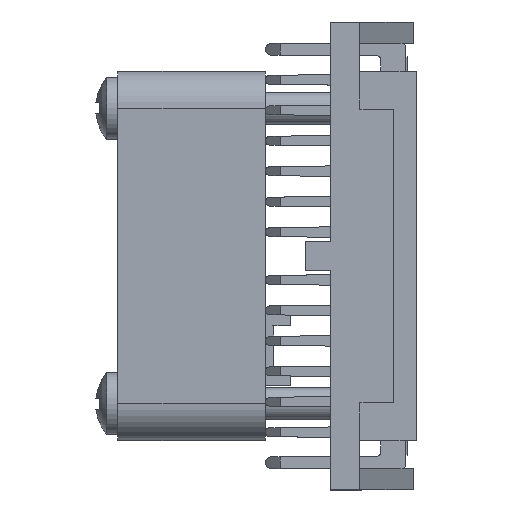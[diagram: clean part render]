
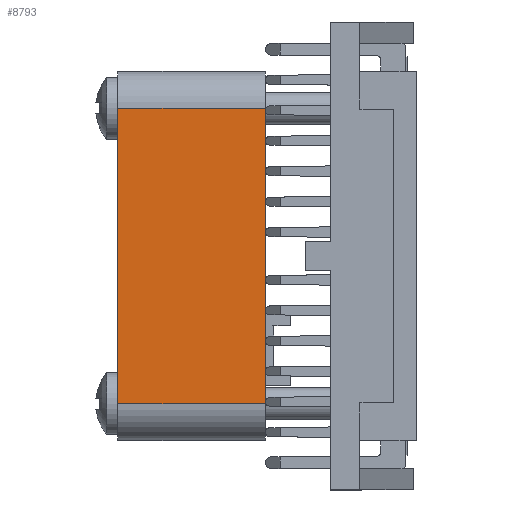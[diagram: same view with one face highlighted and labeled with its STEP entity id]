
A CAD part, left-side view. The second image highlights one B-rep face of the part: STEP entity #8793.
In plain terms, the highlighted planar face has unit normal (-1, 0, 0).
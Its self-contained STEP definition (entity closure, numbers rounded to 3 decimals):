
#26 = CARTESIAN_POINT ( 'NONE',  ( -16.008, 55.3, 6.534 ) ) ;
#1072 = PLANE ( 'NONE',  #2260 ) ;
#2260 = AXIS2_PLACEMENT_3D ( 'NONE', #26, #4471, #8473 ) ;
#2615 = ORIENTED_EDGE ( 'NONE', *, *, #6825, .T. ) ;
#2885 = VERTEX_POINT ( 'NONE', #12292 ) ;
#3529 = VECTOR ( 'NONE', #17269, 1000. ) ;
#4052 = VECTOR ( 'NONE', #14388, 1000. ) ;
#4471 = DIRECTION ( 'NONE',  ( 1., 0., 0. ) ) ;
#4628 = LINE ( 'NONE', #17406, #4052 ) ;
#4956 = EDGE_CURVE ( 'NONE', #2885, #13536, #6289, .T. ) ;
#5463 = CARTESIAN_POINT ( 'NONE',  ( -16.008, 55.3, 6.534 ) ) ;
#5639 = CARTESIAN_POINT ( 'NONE',  ( -16.008, 55.3, 6.534 ) ) ;
#5727 = CARTESIAN_POINT ( 'NONE',  ( -16.008, 55.3, 6.534 ) ) ;
#5916 = LINE ( 'NONE', #5463, #18078 ) ;
#6106 = ORIENTED_EDGE ( 'NONE', *, *, #8635, .F. ) ;
#6242 = CARTESIAN_POINT ( 'NONE',  ( -16.008, 55.3, -13.466 ) ) ;
#6289 = LINE ( 'NONE', #14794, #10032 ) ;
#6436 = ORIENTED_EDGE ( 'NONE', *, *, #9629, .F. ) ;
#6825 = EDGE_CURVE ( 'NONE', #8417, #2885, #4628, .T. ) ;
#7154 = LINE ( 'NONE', #5639, #3529 ) ;
#7552 = VERTEX_POINT ( 'NONE', #5727 ) ;
#7624 = DIRECTION ( 'NONE',  ( 0., 0., 1. ) ) ;
#8417 = VERTEX_POINT ( 'NONE', #6242 ) ;
#8473 = DIRECTION ( 'NONE',  ( 0., 0., -1. ) ) ;
#8635 = EDGE_CURVE ( 'NONE', #7552, #13536, #5916, .T. ) ;
#8793 = ADVANCED_FACE ( 'NONE', ( #14127 ), #1072, .F. ) ;
#8875 = DIRECTION ( 'NONE',  ( 0., -1., 0. ) ) ;
#9629 = EDGE_CURVE ( 'NONE', #8417, #7552, #7154, .T. ) ;
#10032 = VECTOR ( 'NONE', #7624, 1000. ) ;
#12292 = CARTESIAN_POINT ( 'NONE',  ( -16.008, 45.3, -13.466 ) ) ;
#13536 = VERTEX_POINT ( 'NONE', #15303 ) ;
#14127 = FACE_OUTER_BOUND ( 'NONE', #14312, .T. ) ;
#14312 = EDGE_LOOP ( 'NONE', ( #17871, #6106, #6436, #2615 ) ) ;
#14388 = DIRECTION ( 'NONE',  ( 0., -1., 0. ) ) ;
#14794 = CARTESIAN_POINT ( 'NONE',  ( -16.008, 45.3, 6.534 ) ) ;
#15303 = CARTESIAN_POINT ( 'NONE',  ( -16.008, 45.3, 6.534 ) ) ;
#17269 = DIRECTION ( 'NONE',  ( 0., 0., 1. ) ) ;
#17406 = CARTESIAN_POINT ( 'NONE',  ( -16.008, 55.3, -13.466 ) ) ;
#17871 = ORIENTED_EDGE ( 'NONE', *, *, #4956, .T. ) ;
#18078 = VECTOR ( 'NONE', #8875, 1000. ) ;
